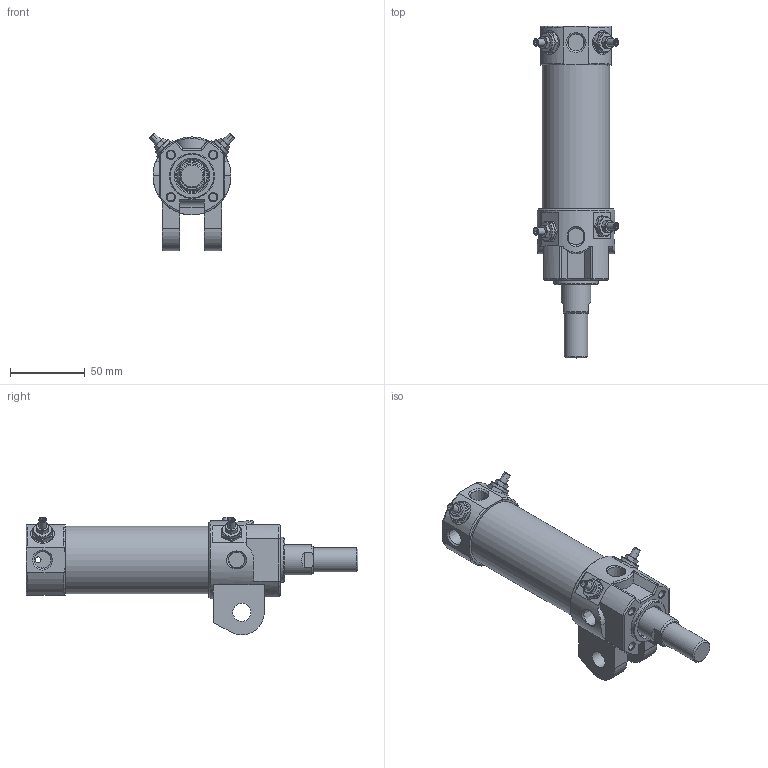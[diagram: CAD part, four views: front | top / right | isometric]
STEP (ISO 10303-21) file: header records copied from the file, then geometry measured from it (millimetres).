
FILE_DESCRIPTION((''),'2;1');
FILE_NAME('I:\3D電子目錄\氣缸\DCK\DCK\DCK-1A-40x50.stp','2008-02-25T15:44:52',('Administrator'),(''),'Autodesk Inventor 11','Autodesk Inventor 11','');
FILE_SCHEMA(('AUTOMOTIVE_DESIGN { 1 0 10303 214 1 1 1 1 }'));
Length unit declared in the file: millimetre
Products named in the file (1): DCK-1A-40x100
Bounding box: 57.13 x 221.5 x 78.56 mm (x, y, z)
Volume: 191983.7 mm3; surface area: 78971.1 mm2
Topology: 11 solids, 11 shells, 524 faces, 1229 edges, 771 vertices
Faces by surface type: bspline 160, plane 148, cylinder 127, cone 60, torus 27, sphere 2
Full cylindrical faces by diameter (mm): 2 x1, 3 x3, 3.8 x1, 4 x4, 4.6 x2, 5 x6, 5.1 x4, 5.2 x2, 7 x1, 7.25 x1, 8 x2, 8.3 x1, 10 x2, 12 x2, 12.8 x2, 16 x2, 20 x1, 21 x1, 22 x3, 23 x1, 24.7 x1, 26 x1, 28 x1, 29 x1, 30 x1, 33 x1, 40 x1, 42 x2, 45 x1, 52 x1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
Entity records: 24562 total; most frequent: CARTESIAN_POINT 14279, ORIENTED_EDGE 2118, DIRECTION 1854, EDGE_CURVE 1059, AXIS2_PLACEMENT_3D 765, EDGE_LOOP 729, VERTEX_POINT 728, FACE_OUTER_BOUND 522
